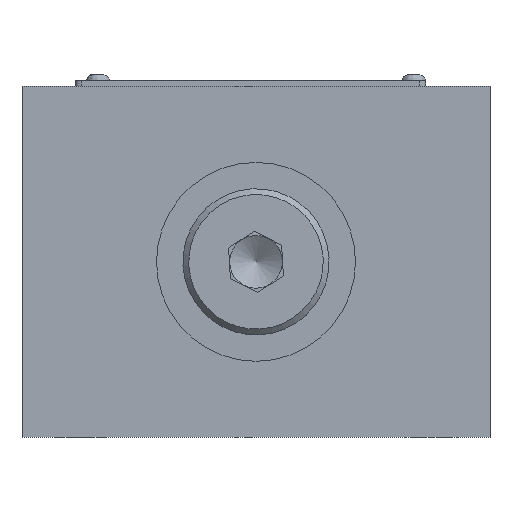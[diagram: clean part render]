
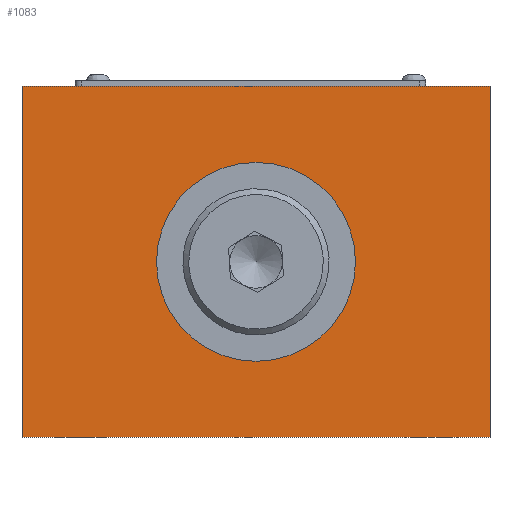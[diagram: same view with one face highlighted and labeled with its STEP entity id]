
A CAD part, front view. The second image highlights one B-rep face of the part: STEP entity #1083.
In plain terms, the highlighted planar face has unit normal (0, -1, 0).
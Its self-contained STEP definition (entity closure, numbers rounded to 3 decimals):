
#1083=ADVANCED_FACE('',(#1829,#1830),#1476,.F.);
#1476=PLANE('',#7036);
#1829=FACE_BOUND('',#2205,.T.);
#1830=FACE_BOUND('',#2206,.T.);
#2205=EDGE_LOOP('',(#3227));
#2206=EDGE_LOOP('',(#3228,#3229,#3230,#3231));
#2763=CIRCLE('',#7035,17.);
#3227=ORIENTED_EDGE('',*,*,#5467,.T.);
#3228=ORIENTED_EDGE('',*,*,#5468,.T.);
#3229=ORIENTED_EDGE('',*,*,#5469,.F.);
#3230=ORIENTED_EDGE('',*,*,#5470,.F.);
#3231=ORIENTED_EDGE('',*,*,#5465,.T.);
#4831=VERTEX_POINT('',#11984);
#4832=VERTEX_POINT('',#11986);
#4833=VERTEX_POINT('',#11990);
#4834=VERTEX_POINT('',#11992);
#4835=VERTEX_POINT('',#11994);
#5465=EDGE_CURVE('',#4832,#4831,#6240,.T.);
#5467=EDGE_CURVE('',#4833,#4833,#2763,.T.);
#5468=EDGE_CURVE('',#4831,#4834,#6242,.T.);
#5469=EDGE_CURVE('',#4835,#4834,#6243,.T.);
#5470=EDGE_CURVE('',#4832,#4835,#6244,.T.);
#6240=LINE('',#11985,#6576);
#6242=LINE('',#11991,#6578);
#6243=LINE('',#11993,#6579);
#6244=LINE('',#11995,#6580);
#6576=VECTOR('',#7991,1.);
#6578=VECTOR('',#7997,1.);
#6579=VECTOR('',#7998,1.);
#6580=VECTOR('',#7999,1.);
#7035=AXIS2_PLACEMENT_3D('',#11989,#7995,#7996);
#7036=AXIS2_PLACEMENT_3D('',#11996,#8000,#8001);
#7991=DIRECTION('',(0.,0.,-1.));
#7995=DIRECTION('',(0.,1.,0.));
#7996=DIRECTION('',(-1.,0.,0.));
#7997=DIRECTION('',(1.,0.,0.));
#7998=DIRECTION('',(0.,0.,-1.));
#7999=DIRECTION('',(1.,0.,0.));
#8000=DIRECTION('',(0.,1.,0.));
#8001=DIRECTION('',(1.,0.,0.));
#11984=CARTESIAN_POINT('',(-32.199,-94.,-30.));
#11985=CARTESIAN_POINT('',(-32.199,-94.,30.));
#11986=CARTESIAN_POINT('',(-32.199,-94.,30.));
#11989=CARTESIAN_POINT('',(7.801,-94.,0.));
#11990=CARTESIAN_POINT('',(-9.199,-94.,0.));
#11991=CARTESIAN_POINT('',(47.801,-94.,-30.));
#11992=CARTESIAN_POINT('',(47.801,-94.,-30.));
#11993=CARTESIAN_POINT('',(47.801,-94.,30.));
#11994=CARTESIAN_POINT('',(47.801,-94.,30.));
#11995=CARTESIAN_POINT('',(47.801,-94.,30.));
#11996=CARTESIAN_POINT('',(47.801,-94.,30.));
